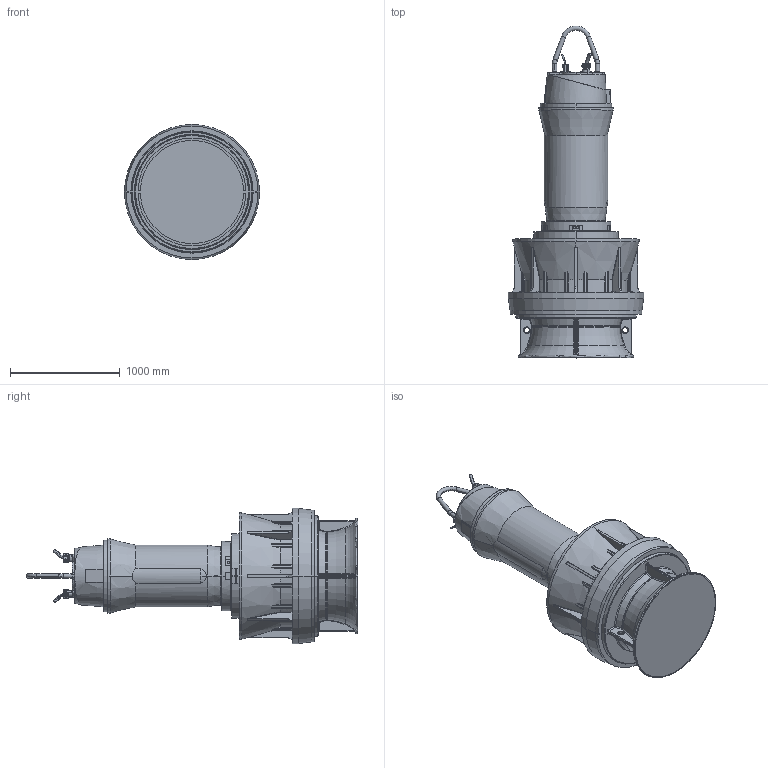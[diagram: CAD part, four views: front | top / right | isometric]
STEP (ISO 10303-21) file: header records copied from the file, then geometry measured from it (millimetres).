
FILE_DESCRIPTION (( 'STEP AP214' ), '1' );
FILE_NAME ('PE6_VUPX1000_STD_B_NG2.STEP', '2017-04-18T12:17:13', ( '' ), ( '' ), 'SwSTEP 2.0', 'SolidWorks 2017', '' );
FILE_SCHEMA (( 'AUTOMOTIVE_DESIGN' ));
Length unit declared in the file: millimetre
Products named in the file (1): PE6_VUPX1000_STD_B_NG2
Bounding box: 1230 x 3021 x 1230 mm (x, y, z)
Volume: 1255808702.8 mm3; surface area: 12212391.7 mm2
Topology: 3 solids, 23 shells, 2510 faces, 6181 edges, 3664 vertices
Faces by surface type: plane 741, cylinder 657, bspline 413, torus 334, cone 250, sphere 115
Entity records: 126341 total; most frequent: CARTESIAN_POINT 42856, ORIENTED_EDGE 12106, DIRECTION 11158, EDGE_CURVE 6053, AXIS2_PLACEMENT_3D 4448, VERTEX_POINT 3659, EDGE_LOOP 2658, UNCERTAINTY_MEASURE_WITH_UNIT 2515
